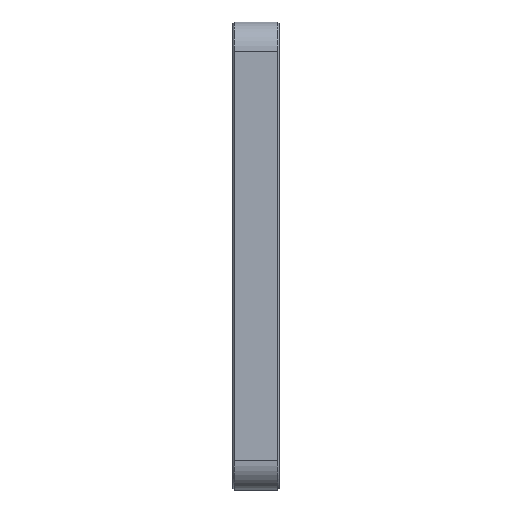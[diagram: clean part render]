
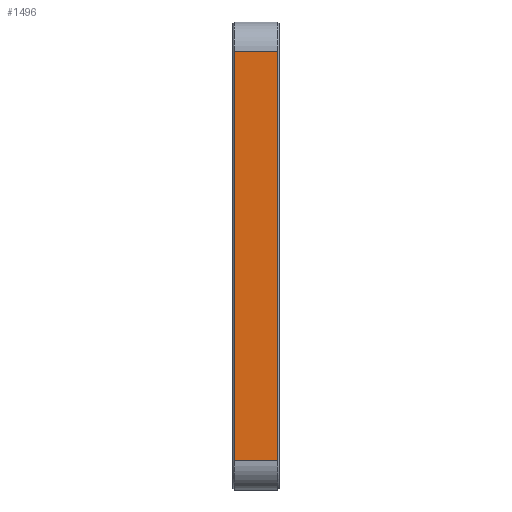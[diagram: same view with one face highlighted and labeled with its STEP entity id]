
A CAD part, left-side view. The second image highlights one B-rep face of the part: STEP entity #1496.
In plain terms, the highlighted planar face has unit normal (-1, 0, 0).
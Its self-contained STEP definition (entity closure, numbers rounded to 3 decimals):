
#82 = CARTESIAN_POINT ( 'NONE',  ( -60., 8., -35. ) ) ;
#95 = VERTEX_POINT ( 'NONE', #1544 ) ;
#96 = VECTOR ( 'NONE', #812, 1000. ) ;
#138 = CARTESIAN_POINT ( 'NONE',  ( -60., 7.7, -35. ) ) ;
#167 = DIRECTION ( 'NONE',  ( 0., 0., -1. ) ) ;
#180 = CARTESIAN_POINT ( 'NONE',  ( -60., 0.3, 35. ) ) ;
#185 = CARTESIAN_POINT ( 'NONE',  ( -60., 8., -40. ) ) ;
#219 = DIRECTION ( 'NONE',  ( 0., 0., -1. ) ) ;
#279 = VECTOR ( 'NONE', #219, 1000. ) ;
#445 = DIRECTION ( 'NONE',  ( 0., 1., 0. ) ) ;
#469 = CARTESIAN_POINT ( 'NONE',  ( -60., 7.7, 35. ) ) ;
#547 = VERTEX_POINT ( 'NONE', #469 ) ;
#566 = ORIENTED_EDGE ( 'NONE', *, *, #1002, .T. ) ;
#624 = FACE_OUTER_BOUND ( 'NONE', #1012, .T. ) ;
#805 = AXIS2_PLACEMENT_3D ( 'NONE', #185, #1379, #167 ) ;
#812 = DIRECTION ( 'NONE',  ( 0., -1., 0. ) ) ;
#961 = CARTESIAN_POINT ( 'NONE',  ( -60., 7.7, -40. ) ) ;
#974 = ORIENTED_EDGE ( 'NONE', *, *, #1661, .T. ) ;
#1002 = EDGE_CURVE ( 'NONE', #95, #1493, #1507, .T. ) ;
#1012 = EDGE_LOOP ( 'NONE', ( #974, #566, #1295, #1102 ) ) ;
#1102 = ORIENTED_EDGE ( 'NONE', *, *, #1656, .T. ) ;
#1195 = VECTOR ( 'NONE', #445, 1000. ) ;
#1276 = LINE ( 'NONE', #961, #279 ) ;
#1293 = LINE ( 'NONE', #82, #96 ) ;
#1295 = ORIENTED_EDGE ( 'NONE', *, *, #1459, .T. ) ;
#1296 = VECTOR ( 'NONE', #1859, 1000. ) ;
#1379 = DIRECTION ( 'NONE',  ( 1., 0., 0. ) ) ;
#1406 = VERTEX_POINT ( 'NONE', #138 ) ;
#1459 = EDGE_CURVE ( 'NONE', #1493, #547, #1776, .T. ) ;
#1493 = VERTEX_POINT ( 'NONE', #1685 ) ;
#1495 = PLANE ( 'NONE',  #805 ) ;
#1496 = ADVANCED_FACE ( 'NONE', ( #624 ), #1495, .F. ) ;
#1507 = LINE ( 'NONE', #180, #1296 ) ;
#1544 = CARTESIAN_POINT ( 'NONE',  ( -60., 0.3, -35. ) ) ;
#1656 = EDGE_CURVE ( 'NONE', #547, #1406, #1276, .T. ) ;
#1661 = EDGE_CURVE ( 'NONE', #1406, #95, #1293, .T. ) ;
#1685 = CARTESIAN_POINT ( 'NONE',  ( -60., 0.3, 35. ) ) ;
#1776 = LINE ( 'NONE', #1783, #1195 ) ;
#1783 = CARTESIAN_POINT ( 'NONE',  ( -60., 8., 35. ) ) ;
#1859 = DIRECTION ( 'NONE',  ( 0., 0., 1. ) ) ;
